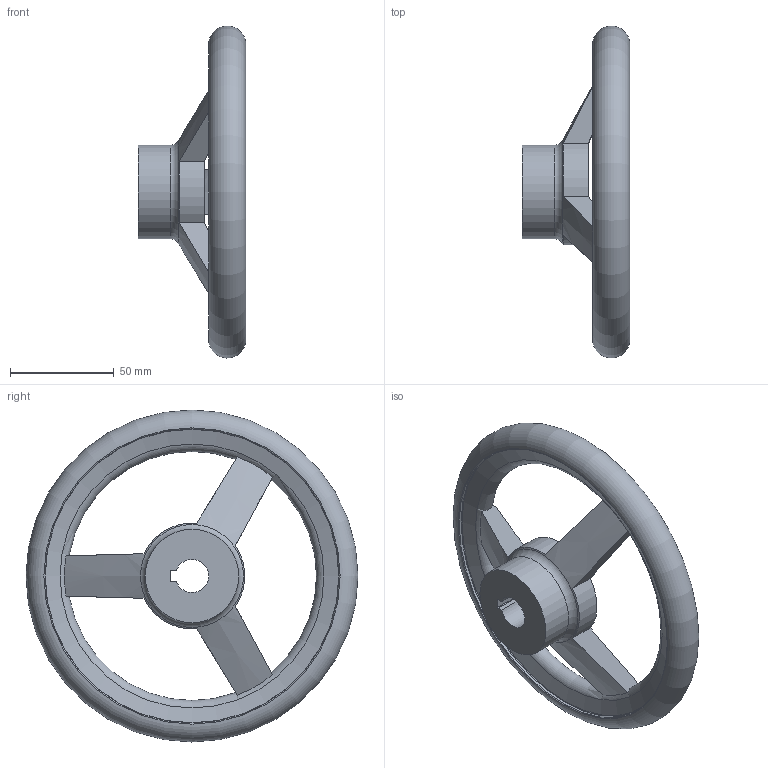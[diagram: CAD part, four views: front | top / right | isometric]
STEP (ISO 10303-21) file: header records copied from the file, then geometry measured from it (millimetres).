
FILE_DESCRIPTION( ( 'STEP AP203' ), '1' );
FILE_NAME( 'C:/Temp/Ganter_Step_05_03_2020/data/1_3/gn_950_1/gn_950_1_k/gn_950_1_k_a/Handwheel GN 950.1-GG-160-K16-A.stp', '2020-03-05T10:32:35', ( 'License CC BY-ND 4.0' ), ( 'CADENAS' ), ' ', 'PARTsolutions', ' ' );
FILE_SCHEMA( ( 'CONFIG_CONTROL_DESIGN' ) );
Length unit declared in the file: millimetre
Products named in the file (1): _Handwheel GN 950.1-GG-160-K16-A
Bounding box: 51.99 x 159.99 x 159.99 mm (x, y, z)
Volume: 178982.9 mm3; surface area: 42688 mm2
Topology: 1 solids, 1 shells, 36 faces, 99 edges, 61 vertices
Faces by surface type: torus 11, plane 11, cylinder 10, cone 4
Full cylindrical faces by diameter (mm): 45 x2, 142 x2
Entity records: 1290 total; most frequent: CARTESIAN_POINT 421, DIRECTION 166, ORIENTED_EDGE 158, EDGE_CURVE 79, AXIS2_PLACEMENT_3D 74, VERTEX_POINT 59, EDGE_LOOP 57, FACE_OUTER_BOUND 48
